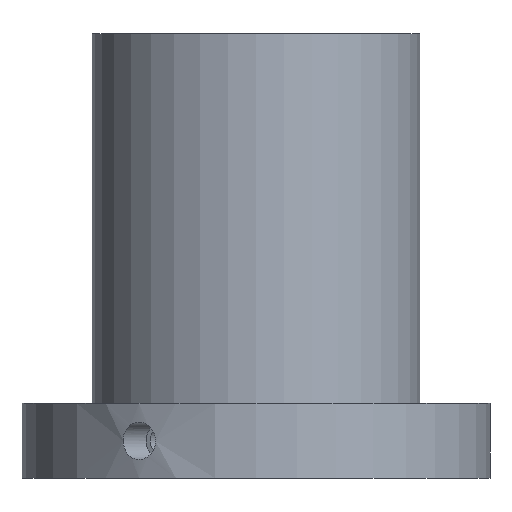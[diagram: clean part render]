
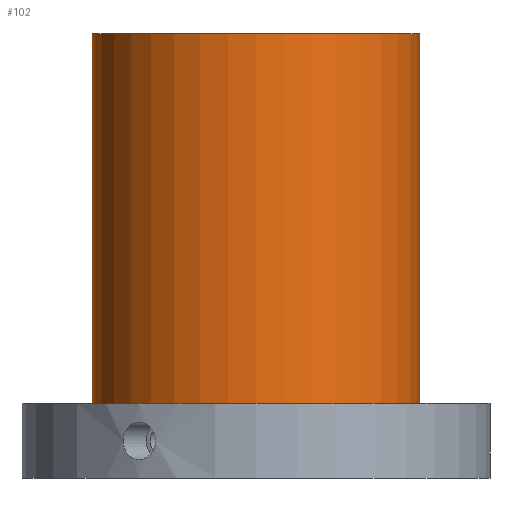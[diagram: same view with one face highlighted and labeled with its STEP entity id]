
A CAD part, front view. The second image highlights one B-rep face of the part: STEP entity #102.
In plain terms, the highlighted cylindrical face has radius 35 mm (diameter 70 mm), a full revolution.
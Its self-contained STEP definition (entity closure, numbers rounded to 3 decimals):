
#102=ADVANCED_FACE('',(#136,#137),#119,.T.);
#119=CYLINDRICAL_SURFACE('',#371,35.);
#136=FACE_BOUND('',#188,.T.);
#137=FACE_BOUND('',#189,.T.);
#188=EDGE_LOOP('',(#240));
#189=EDGE_LOOP('',(#241));
#240=ORIENTED_EDGE('',*,*,#318,.F.);
#241=ORIENTED_EDGE('',*,*,#319,.T.);
#292=VERTEX_POINT('',#557);
#293=VERTEX_POINT('',#559);
#318=EDGE_CURVE('',#292,#292,#343,.T.);
#319=EDGE_CURVE('',#293,#293,#344,.T.);
#343=CIRCLE('',#369,35.);
#344=CIRCLE('',#370,35.);
#369=AXIS2_PLACEMENT_3D('',#556,#415,#416);
#370=AXIS2_PLACEMENT_3D('',#558,#417,#418);
#371=AXIS2_PLACEMENT_3D('',#560,#419,#420);
#415=DIRECTION('',(0.,0.,-1.));
#416=DIRECTION('',(1.,0.,0.));
#417=DIRECTION('',(0.,0.,-1.));
#418=DIRECTION('',(1.,0.,0.));
#419=DIRECTION('',(0.,0.,-1.));
#420=DIRECTION('',(-1.,0.,0.));
#556=CARTESIAN_POINT('',(0.,0.,16.));
#557=CARTESIAN_POINT('',(35.,0.,16.));
#558=CARTESIAN_POINT('',(0.,0.,95.));
#559=CARTESIAN_POINT('',(35.,0.,95.));
#560=CARTESIAN_POINT('',(0.,0.,95.));
